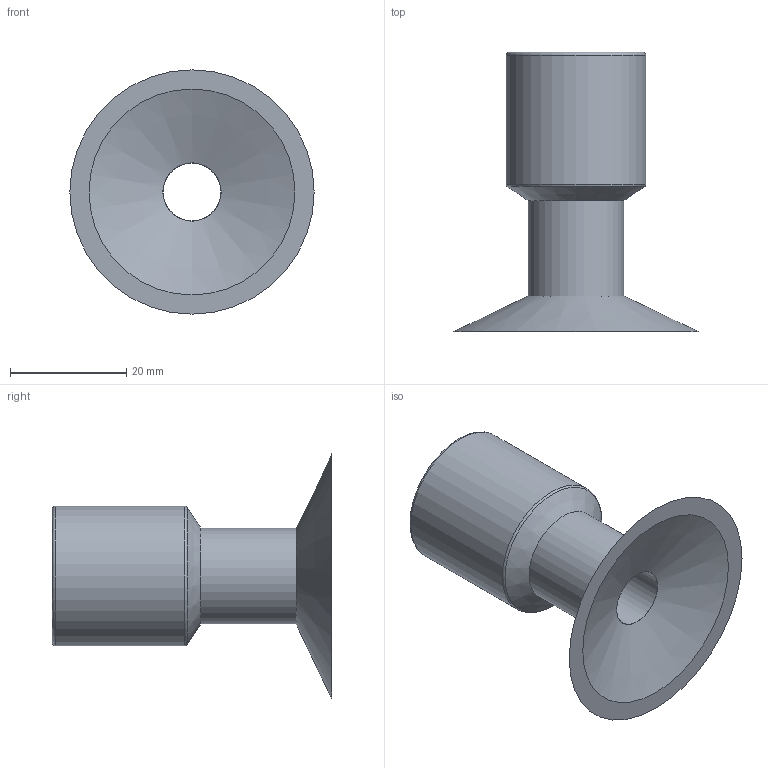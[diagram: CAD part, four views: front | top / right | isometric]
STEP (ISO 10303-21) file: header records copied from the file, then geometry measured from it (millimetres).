
FILE_DESCRIPTION (( 'STEP AP214' ), '1' );
FILE_NAME ('10.042.468.V.STEP', '2020-09-25T14:34:34', ( '' ), ( '' ), 'SwSTEP 2.0', 'SolidWorks 2018', '' );
FILE_SCHEMA (( 'AUTOMOTIVE_DESIGN' ));
Length unit declared in the file: millimetre
Products named in the file (1): 10.042.468.V
Bounding box: 42 x 48 x 42 mm (x, y, z)
Volume: 10718.6 mm3; surface area: 7708.1 mm2
Topology: 1 solids, 1 shells, 13 faces, 23 edges, 14 vertices
Faces by surface type: plane 4, cylinder 4, cone 3, torus 2
Full cylindrical faces by diameter (mm): 10 x1, 16 x1, 16.5 x1, 24 x1
Entity records: 302 total; most frequent: DIRECTION 54, CARTESIAN_POINT 40, AXIS2_PLACEMENT_3D 27, ORIENTED_EDGE 26, EDGE_LOOP 26, FACE_OUTER_BOUND 19, CIRCLE 13, EDGE_CURVE 13
